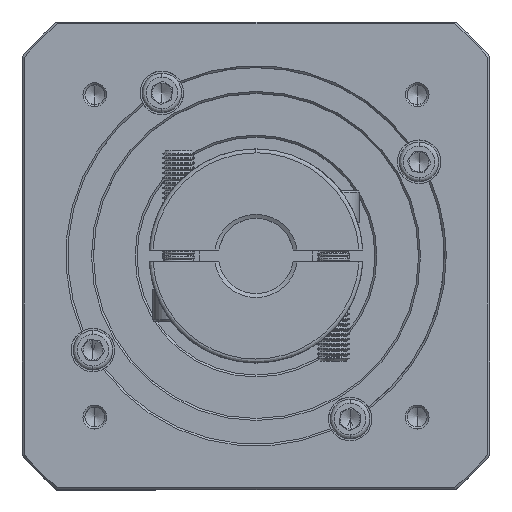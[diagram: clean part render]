
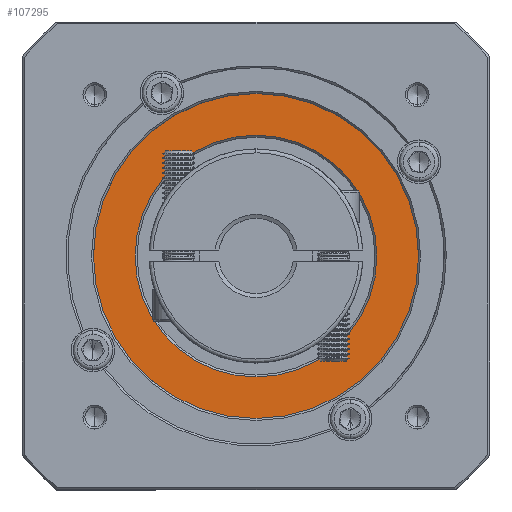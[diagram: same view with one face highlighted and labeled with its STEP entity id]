
A CAD part, top view. The second image highlights one B-rep face of the part: STEP entity #107295.
In plain terms, the highlighted planar face has unit normal (0, 0, 1).
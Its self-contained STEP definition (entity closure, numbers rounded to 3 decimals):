
#3825 = CIRCLE ( 'NONE', #109693, 41. ) ;
#10042 = EDGE_CURVE ( 'NONE', #94589, #78187, #3825, .T. ) ;
#10383 = CARTESIAN_POINT ( 'NONE',  ( -144.201, 88.395, 78.269 ) ) ;
#13821 = EDGE_LOOP ( 'NONE', ( #74694, #80283 ) ) ;
#14496 = EDGE_LOOP ( 'NONE', ( #72751, #73098 ) ) ;
#19649 = DIRECTION ( 'NONE',  ( 0., 1., 0. ) ) ;
#19836 = CARTESIAN_POINT ( 'NONE',  ( -144.201, 47.395, 78.269 ) ) ;
#22698 = CARTESIAN_POINT ( 'NONE',  ( -144.201, 88.395, 78.269 ) ) ;
#23107 = CIRCLE ( 'NONE', #38725, 30.5 ) ;
#25123 = DIRECTION ( 'NONE',  ( 0., 0., 1. ) ) ;
#28759 = DIRECTION ( 'NONE',  ( 0., 0., -1. ) ) ;
#31984 = DIRECTION ( 'NONE',  ( 0., 1., 0. ) ) ;
#37128 = DIRECTION ( 'NONE',  ( 0., 0., 1. ) ) ;
#37297 = EDGE_CURVE ( 'NONE', #78187, #94589, #54397, .T. ) ;
#38725 = AXIS2_PLACEMENT_3D ( 'NONE', #10383, #74530, #19649 ) ;
#43219 = PLANE ( 'NONE',  #54037 ) ;
#43987 = AXIS2_PLACEMENT_3D ( 'NONE', #83507, #28759, #92736 ) ;
#47263 = AXIS2_PLACEMENT_3D ( 'NONE', #91910, #37128, #101201 ) ;
#54037 = AXIS2_PLACEMENT_3D ( 'NONE', #79992, #25123, #89195 ) ;
#54397 = CIRCLE ( 'NONE', #47263, 41. ) ;
#67177 = FACE_BOUND ( 'NONE', #13821, .T. ) ;
#71992 = CIRCLE ( 'NONE', #43987, 30.5 ) ;
#72751 = ORIENTED_EDGE ( 'NONE', *, *, #10042, .T. ) ;
#73098 = ORIENTED_EDGE ( 'NONE', *, *, #37297, .T. ) ;
#74530 = DIRECTION ( 'NONE',  ( 0., 0., -1. ) ) ;
#74694 = ORIENTED_EDGE ( 'NONE', *, *, #101561, .T. ) ;
#78187 = VERTEX_POINT ( 'NONE', #19836 ) ;
#79992 = CARTESIAN_POINT ( 'NONE',  ( -144.201, 88.395, 78.269 ) ) ;
#80283 = ORIENTED_EDGE ( 'NONE', *, *, #81585, .T. ) ;
#81499 = CARTESIAN_POINT ( 'NONE',  ( -144.201, 129.395, 78.269 ) ) ;
#81585 = EDGE_CURVE ( 'NONE', #96699, #112650, #23107, .T. ) ;
#83507 = CARTESIAN_POINT ( 'NONE',  ( -144.201, 88.395, 78.269 ) ) ;
#86770 = DIRECTION ( 'NONE',  ( 0., 0., 1. ) ) ;
#89195 = DIRECTION ( 'NONE',  ( 0., 1., 0. ) ) ;
#91910 = CARTESIAN_POINT ( 'NONE',  ( -144.201, 88.395, 78.269 ) ) ;
#92736 = DIRECTION ( 'NONE',  ( 0., 1., 0. ) ) ;
#94589 = VERTEX_POINT ( 'NONE', #81499 ) ;
#95497 = CARTESIAN_POINT ( 'NONE',  ( -144.201, 118.895, 78.269 ) ) ;
#96699 = VERTEX_POINT ( 'NONE', #111538 ) ;
#100215 = FACE_OUTER_BOUND ( 'NONE', #14496, .T. ) ;
#101201 = DIRECTION ( 'NONE',  ( 0., 1., 0. ) ) ;
#101561 = EDGE_CURVE ( 'NONE', #112650, #96699, #71992, .T. ) ;
#107295 = ADVANCED_FACE ( 'NONE', ( #100215, #67177 ), #43219, .T. ) ;
#109693 = AXIS2_PLACEMENT_3D ( 'NONE', #22698, #86770, #31984 ) ;
#111538 = CARTESIAN_POINT ( 'NONE',  ( -144.201, 57.895, 78.269 ) ) ;
#112650 = VERTEX_POINT ( 'NONE', #95497 ) ;
